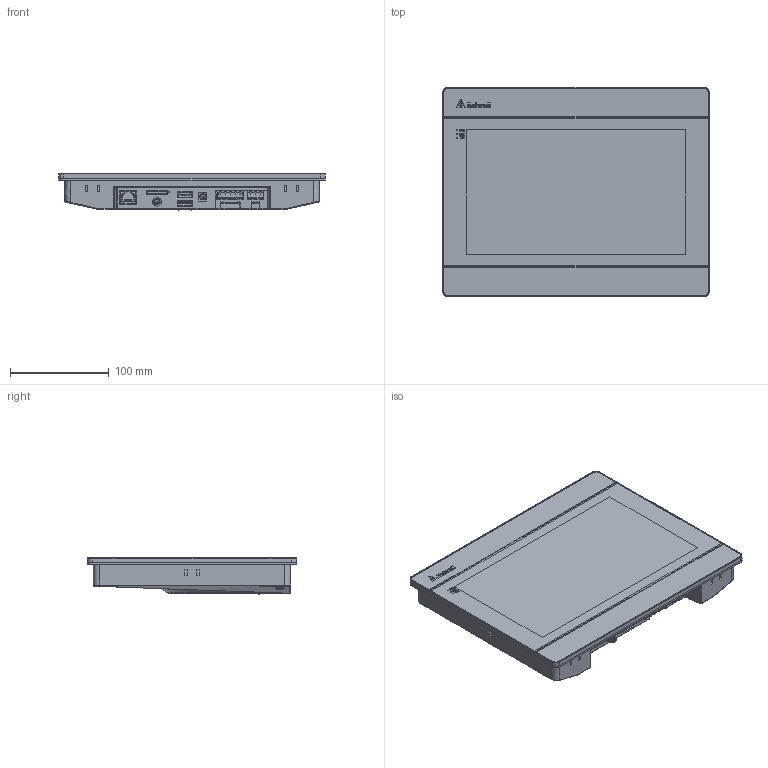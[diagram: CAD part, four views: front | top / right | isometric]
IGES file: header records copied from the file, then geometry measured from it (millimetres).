
Start section: SolidWorks IGES file using analytic representation for surfaces
Global section: file name: C:\Salvar\Planos Compartidos\Haiwell\C10S-EW.IGS; native system: SolidWorks 2021; preprocessor: SolidWorks 2021; author: osval; date: 220118.125541; units: millimetre
Bounding box: 270 x 212 x 37.16 mm (x, y, z)
Surface area: 244143.3 mm2 (no closed solid volume)
Topology: 0 solids, 0 shells, 2469 faces, 20765 edges, 20749 vertices
Faces by surface type: bspline 1827, revolution 642
